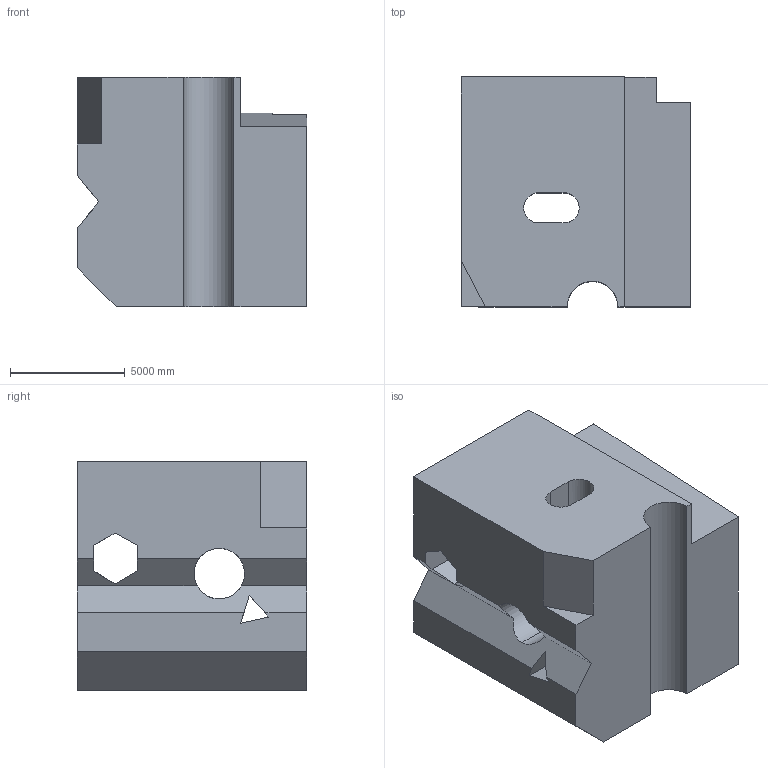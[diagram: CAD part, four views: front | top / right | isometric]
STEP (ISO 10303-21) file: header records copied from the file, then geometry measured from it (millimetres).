
FILE_DESCRIPTION (( 'STEP AP203' ), '1' );
FILE_NAME ('190.STEP', '2022-08-31T12:19:39', ( 'user' ), ( '' ), 'SwSTEP 2.0', 'SolidWorks 2021', '' );
FILE_SCHEMA (( 'CONFIG_CONTROL_DESIGN' ));
Length unit declared in the file: centimetre
Products named in the file (1): 190
Bounding box: 10000 x 10000 x 10000 mm (x, y, z)
Volume: 788003943178 mm3; surface area: 771202234.5 mm2
Topology: 1 solids, 1 shells, 39 faces, 129 edges, 86 vertices
Faces by surface type: plane 31, cylinder 8
Entity records: 1984 total; most frequent: CARTESIAN_POINT 775, ORIENTED_EDGE 258, DIRECTION 209, EDGE_CURVE 129, LINE 105, VECTOR 105, VERTEX_POINT 86, AXIS2_PLACEMENT_3D 52
